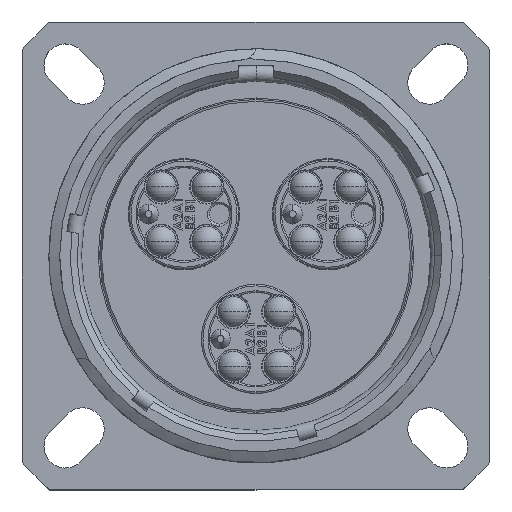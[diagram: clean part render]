
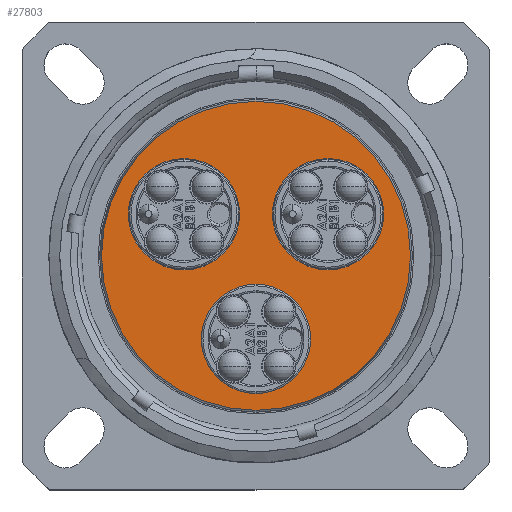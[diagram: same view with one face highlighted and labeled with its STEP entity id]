
A CAD part, top view. The second image highlights one B-rep face of the part: STEP entity #27803.
In plain terms, the highlighted planar face has unit normal (0, 0, 1).
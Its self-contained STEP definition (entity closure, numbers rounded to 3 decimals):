
#152 = VERTEX_POINT ( 'NONE', #17106 ) ;
#262 = VERTEX_POINT ( 'NONE', #16532 ) ;
#398 = AXIS2_PLACEMENT_3D ( 'NONE', #29611, #3360, #29268 ) ;
#629 = DIRECTION ( 'NONE',  ( 1., 0., 0. ) ) ;
#2026 = CIRCLE ( 'NONE', #398, 5.1 ) ;
#2146 = DIRECTION ( 'NONE',  ( -1., 0., 0. ) ) ;
#2152 = AXIS2_PLACEMENT_3D ( 'NONE', #6278, #21620, #3229 ) ;
#2512 = CARTESIAN_POINT ( 'NONE',  ( 14.155, 0., -10.973 ) ) ;
#3229 = DIRECTION ( 'NONE',  ( 1., 0., 0. ) ) ;
#3360 = DIRECTION ( 'NONE',  ( 0., 0., -1. ) ) ;
#3918 = FACE_BOUND ( 'NONE', #18360, .T. ) ;
#3931 = ORIENTED_EDGE ( 'NONE', *, *, #32279, .T. ) ;
#3956 = DIRECTION ( 'NONE',  ( -1., 0., 0. ) ) ;
#5621 = CARTESIAN_POINT ( 'NONE',  ( 11.699, 3.81, -10.973 ) ) ;
#6278 = CARTESIAN_POINT ( 'NONE',  ( 6.599, 3.81, -10.973 ) ) ;
#6582 = CIRCLE ( 'NONE', #12024, 14.155 ) ;
#6716 = EDGE_LOOP ( 'NONE', ( #29853, #16194 ) ) ;
#6744 = CIRCLE ( 'NONE', #19256, 5.01 ) ;
#6797 = EDGE_CURVE ( 'NONE', #24027, #27562, #2026, .T. ) ;
#7283 = PLANE ( 'NONE',  #23744 ) ;
#7922 = DIRECTION ( 'NONE',  ( 0., 0., -1. ) ) ;
#9080 = EDGE_CURVE ( 'NONE', #152, #30797, #11138, .T. ) ;
#9332 = ORIENTED_EDGE ( 'NONE', *, *, #16967, .T. ) ;
#9554 = DIRECTION ( 'NONE',  ( 0., 0., -1. ) ) ;
#9608 = CARTESIAN_POINT ( 'NONE',  ( -1.499, 3.81, -10.973 ) ) ;
#9778 = DIRECTION ( 'NONE',  ( 1., 0., 0. ) ) ;
#10669 = EDGE_LOOP ( 'NONE', ( #29337, #3931 ) ) ;
#10867 = DIRECTION ( 'NONE',  ( 1., 0., 0. ) ) ;
#11138 = CIRCLE ( 'NONE', #15493, 5.01 ) ;
#12024 = AXIS2_PLACEMENT_3D ( 'NONE', #15255, #7922, #2146 ) ;
#12413 = FACE_BOUND ( 'NONE', #10669, .T. ) ;
#13445 = CARTESIAN_POINT ( 'NONE',  ( -6.599, 3.81, -10.973 ) ) ;
#14172 = CARTESIAN_POINT ( 'NONE',  ( 0., 0., -10.973 ) ) ;
#14261 = CARTESIAN_POINT ( 'NONE',  ( 1.499, 3.81, -10.973 ) ) ;
#14808 = EDGE_CURVE ( 'NONE', #27562, #24027, #23374, .T. ) ;
#15255 = CARTESIAN_POINT ( 'NONE',  ( 0., 0., -10.973 ) ) ;
#15493 = AXIS2_PLACEMENT_3D ( 'NONE', #31829, #19172, #629 ) ;
#15813 = CARTESIAN_POINT ( 'NONE',  ( 0., -7.62, -10.973 ) ) ;
#15991 = VERTEX_POINT ( 'NONE', #9608 ) ;
#16115 = ORIENTED_EDGE ( 'NONE', *, *, #14808, .T. ) ;
#16194 = ORIENTED_EDGE ( 'NONE', *, *, #23398, .F. ) ;
#16532 = CARTESIAN_POINT ( 'NONE',  ( -14.155, 0., -10.973 ) ) ;
#16967 = EDGE_CURVE ( 'NONE', #20645, #15991, #19646, .T. ) ;
#17106 = CARTESIAN_POINT ( 'NONE',  ( 0., -12.63, -10.973 ) ) ;
#18360 = EDGE_LOOP ( 'NONE', ( #16115, #29959 ) ) ;
#18900 = EDGE_CURVE ( 'NONE', #262, #26090, #6582, .T. ) ;
#19134 = CARTESIAN_POINT ( 'NONE',  ( -11.699, 3.81, -10.973 ) ) ;
#19172 = DIRECTION ( 'NONE',  ( 0., 0., -1. ) ) ;
#19256 = AXIS2_PLACEMENT_3D ( 'NONE', #15813, #21434, #10867 ) ;
#19646 = CIRCLE ( 'NONE', #22946, 5.1 ) ;
#20065 = FACE_BOUND ( 'NONE', #32073, .T. ) ;
#20284 = AXIS2_PLACEMENT_3D ( 'NONE', #14172, #9554, #3956 ) ;
#20645 = VERTEX_POINT ( 'NONE', #19134 ) ;
#21434 = DIRECTION ( 'NONE',  ( 0., 0., -1. ) ) ;
#21620 = DIRECTION ( 'NONE',  ( 0., 0., -1. ) ) ;
#21826 = AXIS2_PLACEMENT_3D ( 'NONE', #13445, #28623, #28787 ) ;
#22482 = FACE_OUTER_BOUND ( 'NONE', #6716, .T. ) ;
#22649 = DIRECTION ( 'NONE',  ( 0., 0., 1. ) ) ;
#22745 = CARTESIAN_POINT ( 'NONE',  ( -6.599, 3.81, -10.973 ) ) ;
#22946 = AXIS2_PLACEMENT_3D ( 'NONE', #22745, #30426, #9778 ) ;
#23374 = CIRCLE ( 'NONE', #2152, 5.1 ) ;
#23398 = EDGE_CURVE ( 'NONE', #26090, #262, #28477, .T. ) ;
#23744 = AXIS2_PLACEMENT_3D ( 'NONE', #30333, #22649, #27591 ) ;
#24027 = VERTEX_POINT ( 'NONE', #14261 ) ;
#24726 = EDGE_CURVE ( 'NONE', #15991, #20645, #29445, .T. ) ;
#26090 = VERTEX_POINT ( 'NONE', #2512 ) ;
#26743 = ORIENTED_EDGE ( 'NONE', *, *, #24726, .T. ) ;
#27562 = VERTEX_POINT ( 'NONE', #5621 ) ;
#27591 = DIRECTION ( 'NONE',  ( 1., 0., 0. ) ) ;
#27803 = ADVANCED_FACE ( 'NONE', ( #22482, #20065, #3918, #12413 ), #7283, .T. ) ;
#28477 = CIRCLE ( 'NONE', #20284, 14.155 ) ;
#28623 = DIRECTION ( 'NONE',  ( 0., 0., -1. ) ) ;
#28787 = DIRECTION ( 'NONE',  ( 1., 0., 0. ) ) ;
#29268 = DIRECTION ( 'NONE',  ( 1., 0., 0. ) ) ;
#29337 = ORIENTED_EDGE ( 'NONE', *, *, #9080, .T. ) ;
#29445 = CIRCLE ( 'NONE', #21826, 5.1 ) ;
#29611 = CARTESIAN_POINT ( 'NONE',  ( 6.599, 3.81, -10.973 ) ) ;
#29853 = ORIENTED_EDGE ( 'NONE', *, *, #18900, .F. ) ;
#29959 = ORIENTED_EDGE ( 'NONE', *, *, #6797, .T. ) ;
#30333 = CARTESIAN_POINT ( 'NONE',  ( 0., 0., -10.973 ) ) ;
#30426 = DIRECTION ( 'NONE',  ( 0., 0., -1. ) ) ;
#30708 = CARTESIAN_POINT ( 'NONE',  ( 0., -2.61, -10.973 ) ) ;
#30797 = VERTEX_POINT ( 'NONE', #30708 ) ;
#31829 = CARTESIAN_POINT ( 'NONE',  ( 0., -7.62, -10.973 ) ) ;
#32073 = EDGE_LOOP ( 'NONE', ( #26743, #9332 ) ) ;
#32279 = EDGE_CURVE ( 'NONE', #30797, #152, #6744, .T. ) ;
